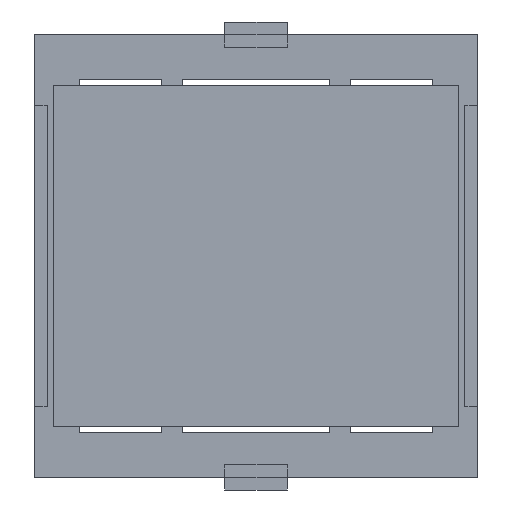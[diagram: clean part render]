
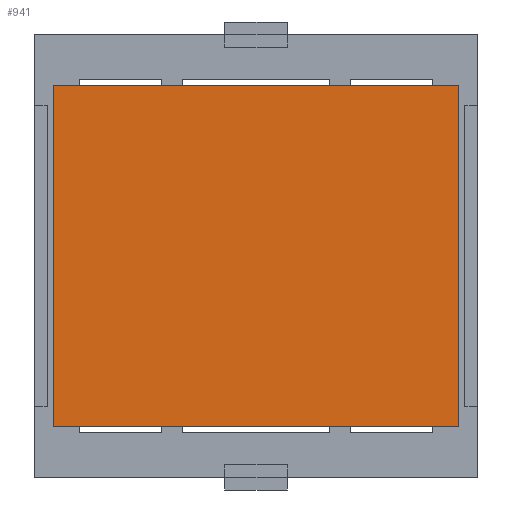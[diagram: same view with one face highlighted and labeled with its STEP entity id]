
A CAD part, front view. The second image highlights one B-rep face of the part: STEP entity #941.
In plain terms, the highlighted planar face has unit normal (0, -1, 0).
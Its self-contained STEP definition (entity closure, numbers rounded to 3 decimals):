
#289 = CARTESIAN_POINT ( 'NONE',  ( 16.129, -0.127, -13.589 ) ) ;
#306 = VECTOR ( 'NONE', #1034, 1000. ) ;
#537 = PLANE ( 'NONE',  #4491 ) ;
#551 = EDGE_CURVE ( 'NONE', #1373, #1013, #2473, .T. ) ;
#620 = VERTEX_POINT ( 'NONE', #289 ) ;
#679 = VECTOR ( 'NONE', #2943, 1000. ) ;
#915 = EDGE_CURVE ( 'NONE', #2379, #1373, #3630, .T. ) ;
#941 = ADVANCED_FACE ( 'NONE', ( #5644 ), #537, .F. ) ;
#1013 = VERTEX_POINT ( 'NONE', #3491 ) ;
#1034 = DIRECTION ( 'NONE',  ( -1., 0., 0. ) ) ;
#1122 = EDGE_LOOP ( 'NONE', ( #1616, #3049, #1629, #2919 ) ) ;
#1166 = DIRECTION ( 'NONE',  ( 0., 0., -1. ) ) ;
#1232 = CARTESIAN_POINT ( 'NONE',  ( -16.129, -0.127, 13.589 ) ) ;
#1345 = DIRECTION ( 'NONE',  ( 0., 1., 0. ) ) ;
#1373 = VERTEX_POINT ( 'NONE', #1232 ) ;
#1616 = ORIENTED_EDGE ( 'NONE', *, *, #915, .F. ) ;
#1629 = ORIENTED_EDGE ( 'NONE', *, *, #3937, .F. ) ;
#1893 = VECTOR ( 'NONE', #2726, 1000. ) ;
#2379 = VERTEX_POINT ( 'NONE', #4455 ) ;
#2473 = LINE ( 'NONE', #5318, #679 ) ;
#2654 = CARTESIAN_POINT ( 'NONE',  ( 16.129, -0.127, -13.589 ) ) ;
#2714 = LINE ( 'NONE', #2654, #3374 ) ;
#2726 = DIRECTION ( 'NONE',  ( 0., 0., 1. ) ) ;
#2919 = ORIENTED_EDGE ( 'NONE', *, *, #551, .F. ) ;
#2943 = DIRECTION ( 'NONE',  ( 1., 0., 0. ) ) ;
#3049 = ORIENTED_EDGE ( 'NONE', *, *, #5760, .F. ) ;
#3272 = DIRECTION ( 'NONE',  ( 0., 0., 1. ) ) ;
#3329 = LINE ( 'NONE', #5359, #306 ) ;
#3374 = VECTOR ( 'NONE', #1166, 1000. ) ;
#3491 = CARTESIAN_POINT ( 'NONE',  ( 16.129, -0.127, 13.589 ) ) ;
#3630 = LINE ( 'NONE', #5529, #1893 ) ;
#3937 = EDGE_CURVE ( 'NONE', #1013, #620, #2714, .T. ) ;
#4455 = CARTESIAN_POINT ( 'NONE',  ( -16.129, -0.127, -13.589 ) ) ;
#4491 = AXIS2_PLACEMENT_3D ( 'NONE', #4751, #1345, #3272 ) ;
#4751 = CARTESIAN_POINT ( 'NONE',  ( -16.129, -0.127, 13.589 ) ) ;
#5318 = CARTESIAN_POINT ( 'NONE',  ( -16.129, -0.127, 13.589 ) ) ;
#5359 = CARTESIAN_POINT ( 'NONE',  ( -16.129, -0.127, -13.589 ) ) ;
#5529 = CARTESIAN_POINT ( 'NONE',  ( -16.129, -0.127, -13.589 ) ) ;
#5644 = FACE_OUTER_BOUND ( 'NONE', #1122, .T. ) ;
#5760 = EDGE_CURVE ( 'NONE', #620, #2379, #3329, .T. ) ;
